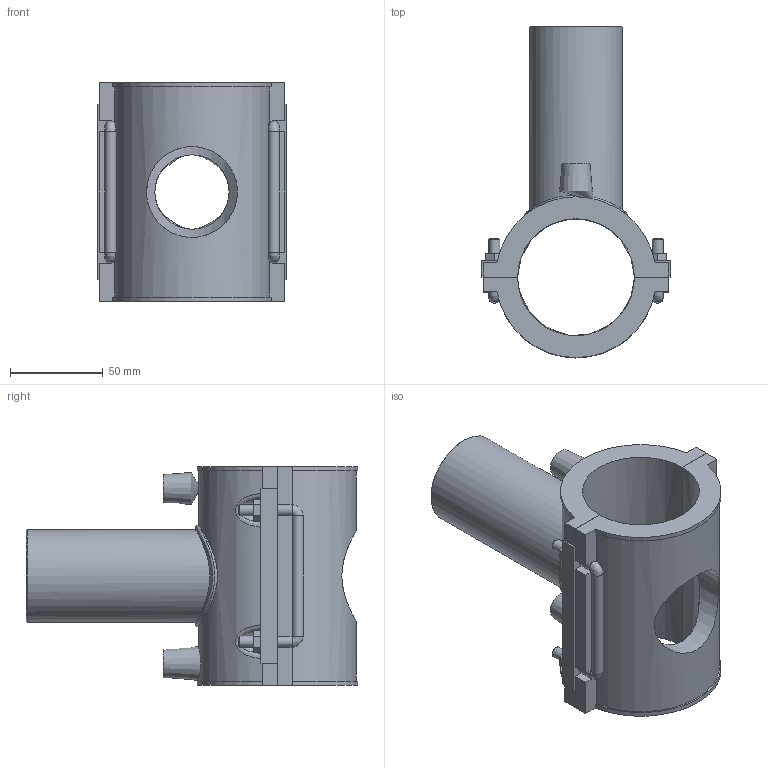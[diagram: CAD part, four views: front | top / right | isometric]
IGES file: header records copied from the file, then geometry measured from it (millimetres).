
Global section: file name: 495804063050.ipt; native system: Autodesk Inventor 2015; preprocessor: unknown; author: KIM; date: 20180426.120823; units: millimetre
Bounding box: 102 x 178.85 x 118 mm (x, y, z)
Volume: 376476 mm3; surface area: 105104 mm2
Topology: 2 solids, 4 shells, 149 faces, 376 edges, 238 vertices
Faces by surface type: plane 89, cylinder 26, revolution 14, bspline 13, cone 7
Full cylindrical faces by diameter (mm): 4 x2, 6 x8, 50 x1, 55 x1
